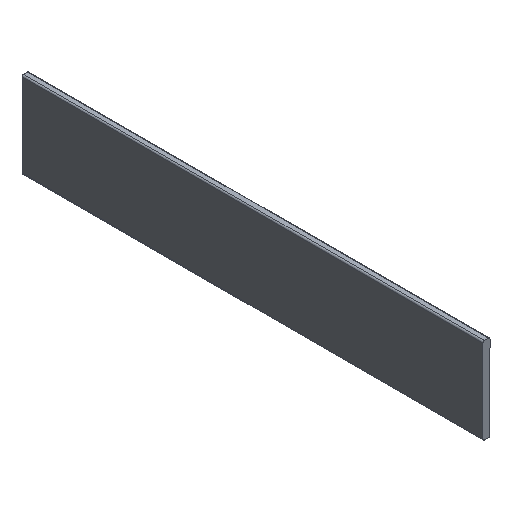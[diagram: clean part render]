
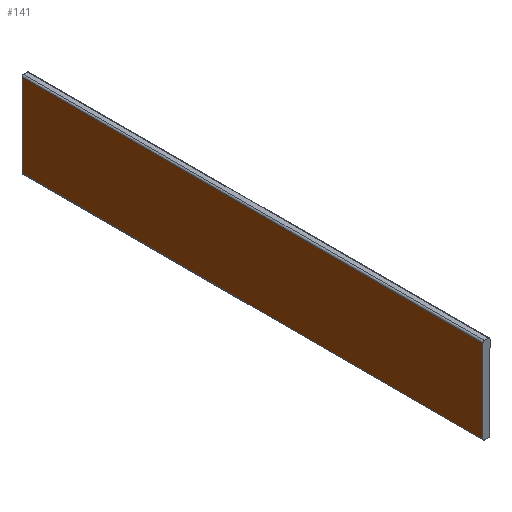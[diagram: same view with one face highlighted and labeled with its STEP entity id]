
A CAD part, isometric view. The second image highlights one B-rep face of the part: STEP entity #141.
In plain terms, the highlighted planar face has unit normal (-1, 0, 0).
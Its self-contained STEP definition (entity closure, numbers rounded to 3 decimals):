
#1 = CARTESIAN_POINT ( 'NONE',  ( -3.9, 513., 1.6 ) ) ;
#3 = CARTESIAN_POINT ( 'NONE',  ( -3.9, 0., 1.6 ) ) ;
#4 = CARTESIAN_POINT ( 'NONE',  ( -3.9, 0., 94.2 ) ) ;
#36 = VECTOR ( 'NONE', #195, 1000. ) ;
#49 = CARTESIAN_POINT ( 'NONE',  ( -3.9, 513., 94.2 ) ) ;
#82 = CARTESIAN_POINT ( 'NONE',  ( -3.9, 513., 0. ) ) ;
#85 = FACE_OUTER_BOUND ( 'NONE', #247, .T. ) ;
#86 = PLANE ( 'NONE',  #164 ) ;
#88 = DIRECTION ( 'NONE',  ( -1., 0., 0. ) ) ;
#89 = DIRECTION ( 'NONE',  ( 0., -1., 0. ) ) ;
#119 = EDGE_CURVE ( 'NONE', #132, #272, #187, .T. ) ;
#120 = EDGE_CURVE ( 'NONE', #272, #275, #233, .T. ) ;
#121 = EDGE_CURVE ( 'NONE', #274, #275, #193, .T. ) ;
#122 = EDGE_CURVE ( 'NONE', #274, #132, #196, .T. ) ;
#132 = VERTEX_POINT ( 'NONE', #49 ) ;
#141 = ADVANCED_FACE ( 'NONE', ( #85 ), #86, .T. ) ;
#164 = AXIS2_PLACEMENT_3D ( 'NONE', #82, #88, #89 ) ;
#187 = LINE ( 'NONE', #189, #319 ) ;
#189 = CARTESIAN_POINT ( 'NONE',  ( -3.9, 513., 0. ) ) ;
#190 = DIRECTION ( 'NONE',  ( 0., 0., -1. ) ) ;
#191 = CARTESIAN_POINT ( 'NONE',  ( -3.9, 513., 1.6 ) ) ;
#192 = DIRECTION ( 'NONE',  ( 0., -1., 0. ) ) ;
#193 = LINE ( 'NONE', #194, #36 ) ;
#194 = CARTESIAN_POINT ( 'NONE',  ( -3.9, 0., 0. ) ) ;
#195 = DIRECTION ( 'NONE',  ( 0., 0., -1. ) ) ;
#196 = LINE ( 'NONE', #197, #318 ) ;
#197 = CARTESIAN_POINT ( 'NONE',  ( -3.9, 513., 94.2 ) ) ;
#198 = DIRECTION ( 'NONE',  ( 0., 1., 0. ) ) ;
#233 = LINE ( 'NONE', #191, #326 ) ;
#247 = EDGE_LOOP ( 'NONE', ( #284, #285, #286, #287 ) ) ;
#272 = VERTEX_POINT ( 'NONE', #1 ) ;
#274 = VERTEX_POINT ( 'NONE', #4 ) ;
#275 = VERTEX_POINT ( 'NONE', #3 ) ;
#284 = ORIENTED_EDGE ( 'NONE', *, *, #119, .T. ) ;
#285 = ORIENTED_EDGE ( 'NONE', *, *, #120, .T. ) ;
#286 = ORIENTED_EDGE ( 'NONE', *, *, #121, .F. ) ;
#287 = ORIENTED_EDGE ( 'NONE', *, *, #122, .T. ) ;
#318 = VECTOR ( 'NONE', #198, 1000. ) ;
#319 = VECTOR ( 'NONE', #190, 1000. ) ;
#326 = VECTOR ( 'NONE', #192, 1000. ) ;
